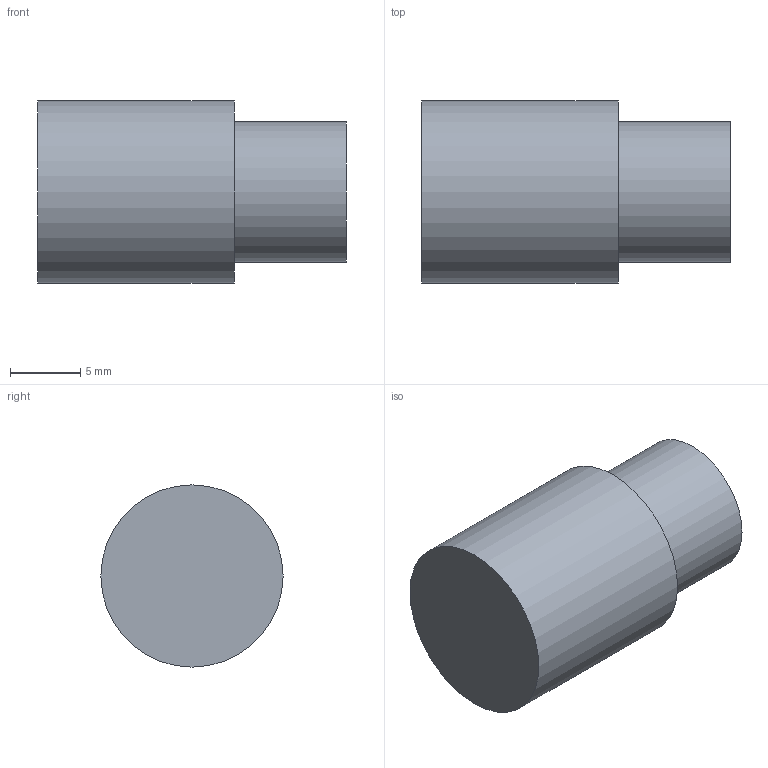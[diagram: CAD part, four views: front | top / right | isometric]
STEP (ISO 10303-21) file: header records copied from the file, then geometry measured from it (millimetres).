
FILE_DESCRIPTION(('Open CASCADE Model'),'2;1');
FILE_NAME('Open CASCADE Shape Model','2026-10-15T19:48:39',('Author'),( 'Open CASCADE'),'Open CASCADE STEP processor 7.9','Open CASCADE 7.9' ,'Unknown');
FILE_SCHEMA(('AUTOMOTIVE_DESIGN { 1 0 10303 214 1 1 1 1 }'));
Length unit declared in the file: millimetre
Products named in the file (1): Open CASCADE STEP translator 7.9 3
Bounding box: 22 x 13 x 13 mm (x, y, z)
Volume: 2486.6 mm3; surface area: 1088.6 mm2
Topology: 1 solids, 1 shells, 5 faces, 6 edges, 4 vertices
Faces by surface type: plane 3, cylinder 2
Full cylindrical faces by diameter (mm): 10 x1, 13 x1
Entity records: 192 total; most frequent: DIRECTION 34, CARTESIAN_POINT 28, ORIENTED_EDGE 12, PCURVE 12, DEFINITIONAL_REPRESENTATION 12, AXIS2_PLACEMENT_3D 10, LINE 10, VECTOR 10
